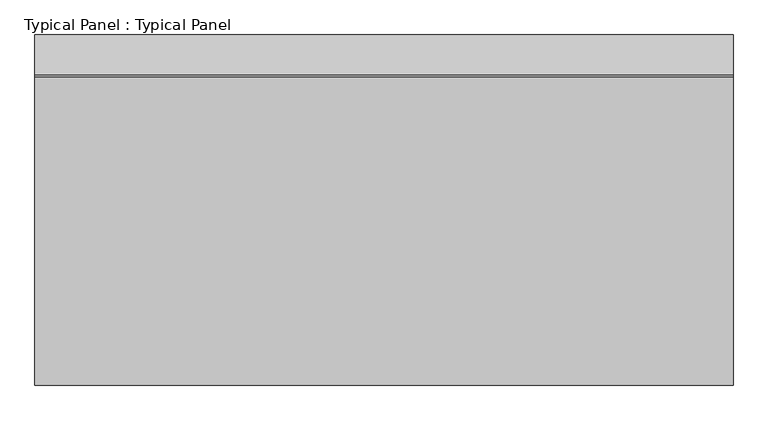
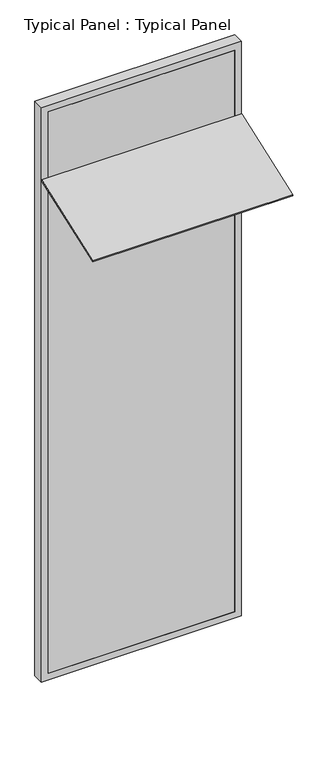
"""IFC4 building model written with IfcOpenShell, lengths in millimetres: plate geometry, Typical Panel : Typical Panel."""

from ifc_helpers import new_model, si_unit, frame, origin, place, context, project, spatial, polyline, outline, extrude, source, transform, mapped, element, save


def typical_panel_typical_panel_2ea1af38(model_context):
    return source(origin(), model_context, "Body", "SweptSolid", [
        extrude(outline(polyline([(0.0, -620.0), (0.0, 0.0), (1317.1916898, 0.0), (1317.1916898, -620.0), (0.0, -620.0)])), frame((658.5958449, -584.1892235, 3278.5505849), z_axis=(0.0, -0.3420201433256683, 0.9396926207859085), x_axis=(-1.0, 0.0, 0.0)), (0.0, 0.0, 1.0), 10.0),
        extrude(outline(polyline([(0.0, -658.5958449), (0.0, 658.5958449), (4000.0, 658.5958449), (4000.0, -658.5958449), (0.0, -658.5958449)]), holes=[polyline([(45.0, 613.5958449), (45.0, -613.5958449), (3955.0, -613.5958449), (3955.0, 613.5958449), (45.0, 613.5958449)])]), frame((0.0, -1.5797986, 0.0), z_axis=(0.0, 1.0, 0.0), x_axis=(0.0, 0.0, 1.0)), (0.0, 0.0, 1.0), 75.0),
        extrude(outline(polyline([(613.5958449, -1.5797986), (-613.5958449, -1.5797986), (-613.5958449, 13.4202014), (613.5958449, 13.4202014), (613.5958449, -1.5797986)])), frame((0.0, 0.0, 45.0), z_axis=(0.0, 0.0, 1.0), x_axis=(1.0, 0.0, 0.0)), (0.0, 0.0, 1.0), 3910.0),
    ])


if __name__ == "__main__":
    model = new_model("IFC4")
    model_context = context("Model", 3, world=origin())
    ifc_project = project(units=[si_unit("LENGTHUNIT", "METRE", prefix="MILLI")], contexts=[model_context])
    site = spatial("IfcSite", under=ifc_project)
    building = spatial("IfcBuilding", under=site)
    placement = place(None, origin())
    typical_panel_typical_panel_shape = typical_panel_typical_panel_2ea1af38(model_context)
    element("IfcPlate", 1, ObjectType="Typical Panel : Typical Panel", at=placement, inside=building, context=model_context, shape_type="MappedRepresentation", body=[
        mapped(typical_panel_typical_panel_shape, transform((0.0, 0.0, 0.0), x_axis=(1.0, 0.0, 0.0), y_axis=(0.0, 1.0, 0.0), z_axis=(0.0, 0.0, 1.0))),
    ])
    save(model, "model.ifc")
